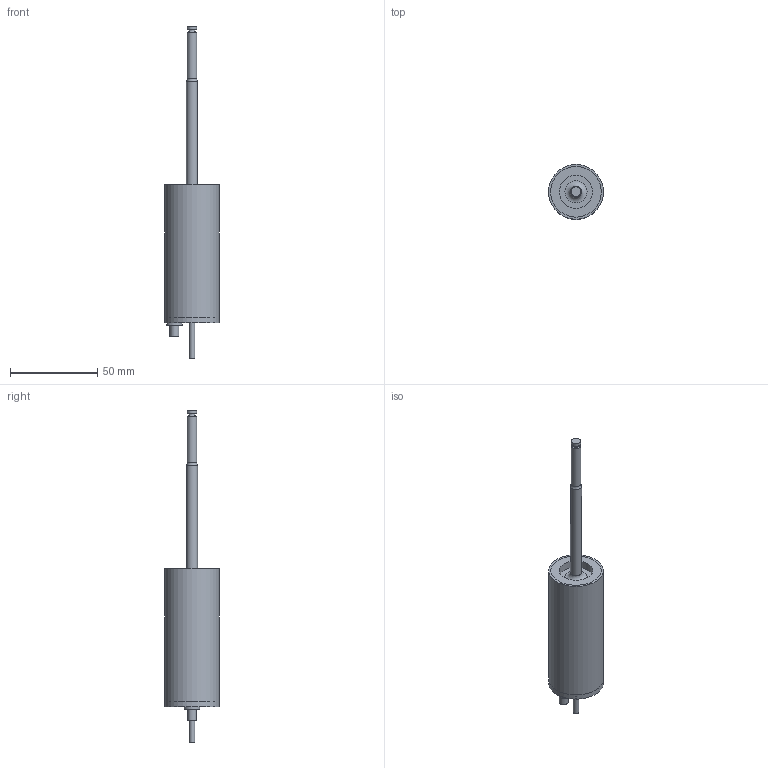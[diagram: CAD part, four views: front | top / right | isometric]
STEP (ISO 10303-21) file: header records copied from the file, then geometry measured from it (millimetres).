
FILE_DESCRIPTION((''),'2;1');
FILE_NAME('Y:\Desktop\AutoDesk\Atomizer Nozzles\40kHz\CF40K.stp','2017-08-29T14:59:12',('Owner'),(''),'Autodesk Inventor 2013','Autodesk Inventor 2013','');
FILE_SCHEMA(('AUTOMOTIVE_DESIGN { 1 0 10303 214 1 1 1 1 }'));
Length unit declared in the file: inch
Products named in the file (8): radial; 1-64 screw; long case; lid; electrical connector; top tube; ring; 40khz radial spray
Assembly tree (10 placements, depth 2):
  radial
    1-64 screw  x4
    long case
    lid
    electrical connector
    top tube
    ring
    40khz radial spray
Bounding box: 31.55 x 31.55 x 190.53 mm (x, y, z)
Volume: 28594.4 mm3; surface area: 22409.3 mm2
Topology: 10 solids, 10 shells, 138 faces, 279 edges, 180 vertices
Faces by surface type: plane 72, cylinder 51, torus 10, cone 5
Full cylindrical faces by diameter (mm): 0.305 x1, 0.457 x1, 0.508 x8, 1.27 x1, 1.829 x1, 1.854 x12, 2.845 x4, 2.997 x4, 3.175 x2, 3.81 x1, 4.623 x1, 5.182 x1, 5.461 x2, 6.35 x1, 8.712 x1, 8.992 x1, 19.05 x2, 25.4 x1, 29.007 x2, 31.496 x1, 31.547 x1
Entity records: 2735 total; most frequent: CARTESIAN_POINT 606, DIRECTION 436, ORIENTED_EDGE 240, AXIS2_PLACEMENT_3D 206, EDGE_LOOP 188, EDGE_CURVE 120, VERTEX_POINT 104, FACE_BOUND 95
